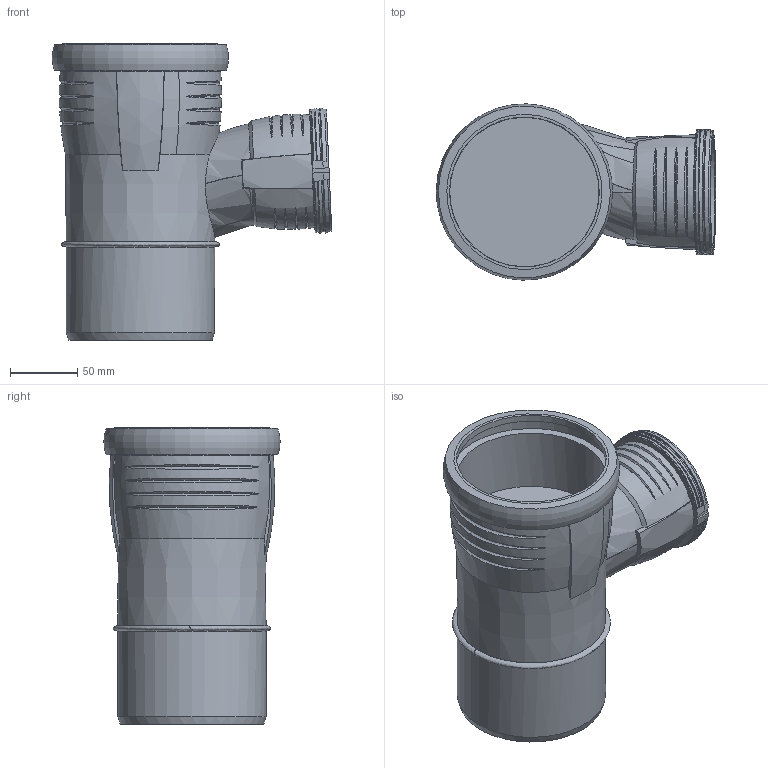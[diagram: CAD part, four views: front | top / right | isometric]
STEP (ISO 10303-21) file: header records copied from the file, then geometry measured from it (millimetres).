
FILE_DESCRIPTION(/* description */ (''),/* implementation_level */ '2;1');
FILE_NAME(/* name */ 'C:\Planerdaten\Export PLA\393.545.14.1\stp\393545.stp',/* time_stamp */ '2022-09-16T14:48:08+02:00',/* author */ ('JANAN'),/* organization */ (''),/* preprocessor_version */ 'ST-DEVELOPER v18.1',/* originating_system */ 'Autodesk Inventor 2021',/* authorisation */ '');
FILE_SCHEMA (('AUTOMOTIVE_DESIGN { 1 0 10303 214 3 1 1 }'));
Length unit declared in the file: millimetre
Products named in the file (1): tmpC5C0.tmp
Bounding box: 207.63 x 130.96 x 220 mm (x, y, z)
Volume: 1300107.2 mm3; surface area: 198106.4 mm2
Topology: 2 solids, 2 shells, 139 faces, 356 edges, 241 vertices
Faces by surface type: bspline 79, cone 28, cylinder 18, plane 11, torus 3
Full cylindrical faces by diameter (mm): 75.9 x1, 85 x2, 101.2 x1, 110.2 x1, 111 x1, 111.3 x1, 121.5 x1
Entity records: 16019 total; most frequent: CARTESIAN_POINT 12839, ORIENTED_EDGE 720, DIRECTION 480, EDGE_CURVE 360, VERTEX_POINT 247, AXIS2_PLACEMENT_3D 215, EDGE_LOOP 163, B_SPLINE_CURVE_WITH_KNOTS 156
